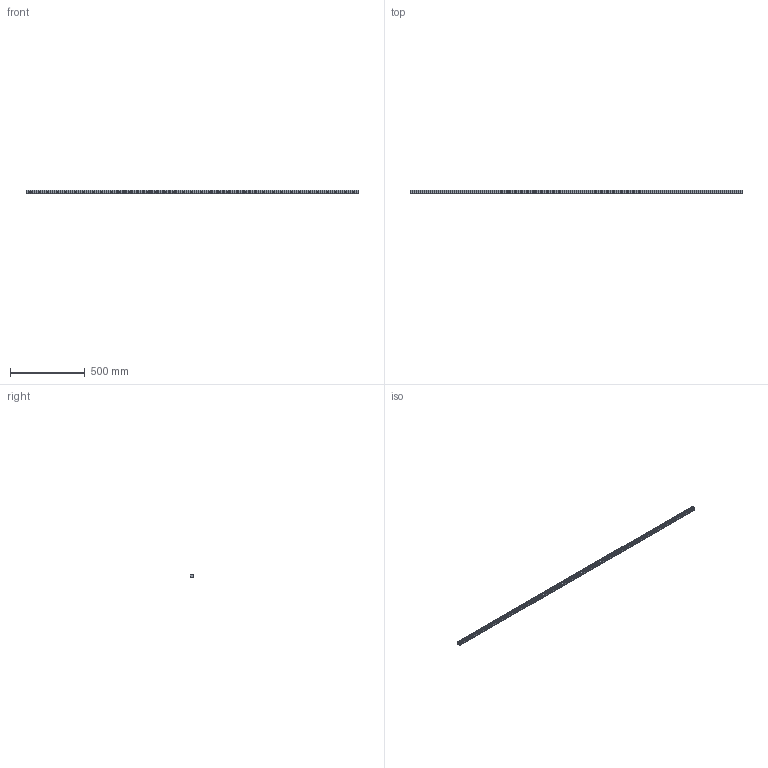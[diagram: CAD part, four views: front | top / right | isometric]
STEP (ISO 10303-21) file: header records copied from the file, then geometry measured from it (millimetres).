
FILE_DESCRIPTION (( 'STEP AP203' ), '1' );
FILE_NAME ('L1018.25R-2220.step', '2023-08-06T10:41:02', ( '' ), ( '' ), 'SwSTEP 2.0', 'SolidWorks 2019', '' );
FILE_SCHEMA (( 'CONFIG_CONTROL_DESIGN' ));
Length unit declared in the file: millimetre
Products named in the file (1): L1018.25R-2220
Bounding box: 2220 x 21.8 x 25 mm (x, y, z)
Volume: 923271.6 mm3; surface area: 221291.1 mm2
Topology: 1 solids, 1 shells, 362 faces, 821 edges, 461 vertices
Faces by surface type: cylinder 151, cone 148, plane 63
Entity records: 9656 total; most frequent: DIRECTION 1849, CARTESIAN_POINT 1571, ORIENTED_EDGE 1494, EDGE_CURVE 747, AXIS2_PLACEMENT_3D 739, VERTEX_POINT 461, EDGE_LOOP 436, CIRCLE 376
